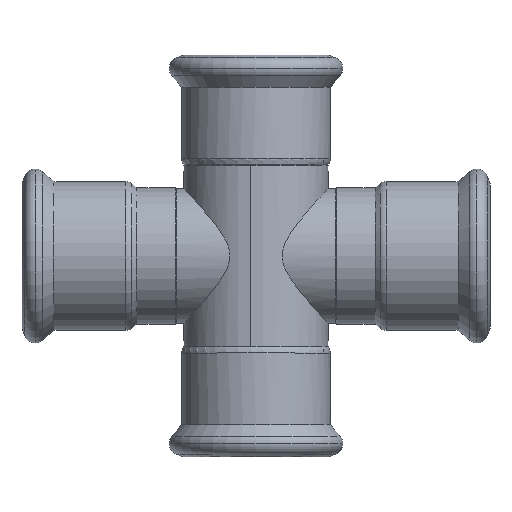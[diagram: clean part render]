
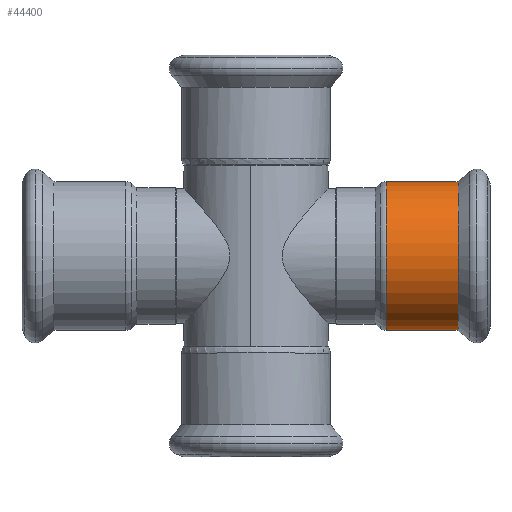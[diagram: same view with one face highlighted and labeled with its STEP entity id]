
A CAD part, top view. The second image highlights one B-rep face of the part: STEP entity #44400.
In plain terms, the highlighted cylindrical face has radius 19.1 mm (diameter 38.2 mm), a partial arc.
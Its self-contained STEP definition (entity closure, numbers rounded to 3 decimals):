
#39380=CARTESIAN_POINT('',(65.628,-21.755,
0.));
#39390=VERTEX_POINT('',#39380);
#39480=CARTESIAN_POINT('',(65.628,16.445,
0.));
#39490=VERTEX_POINT('',#39480);
#39520=CARTESIAN_POINT('',(65.628,-2.655,0.));
#39530=DIRECTION('',(-1.,0.,0.));
#39540=DIRECTION('',(0.,1.,0.));
#39550=AXIS2_PLACEMENT_3D('',#39520,#39530,#39540);
#39560=CIRCLE('',#39550,19.1);
#39570=EDGE_CURVE('',#39390,#39490,#39560,.T.);
#44090=CARTESIAN_POINT('',(74.828,-2.655,
0.));
#44100=DIRECTION('',(-1.,0.,0.));
#44110=DIRECTION('',(0.,1.,0.));
#44120=AXIS2_PLACEMENT_3D('',#44090,#44100,#44110);
#44130=CYLINDRICAL_SURFACE('',#44120,19.1);
#44140=CARTESIAN_POINT('',(74.828,-21.755,
0.));
#44150=DIRECTION('',(-1.,0.,0.));
#44160=VECTOR('',#44150,1.);
#44170=LINE('',#44140,#44160);
#44180=CARTESIAN_POINT('',(84.028,-21.755,
0.));
#44190=VERTEX_POINT('',#44180);
#44200=EDGE_CURVE('',#44190,#39390,#44170,.T.);
#44210=ORIENTED_EDGE('',*,*,#44200,.F.);
#44220=ORIENTED_EDGE('',*,*,#39570,.F.);
#44230=CARTESIAN_POINT('',(74.828,16.445,
0.));
#44240=DIRECTION('',(-1.,0.,0.));
#44250=VECTOR('',#44240,1.);
#44260=LINE('',#44230,#44250);
#44270=CARTESIAN_POINT('',(84.028,16.445,
0.));
#44280=VERTEX_POINT('',#44270);
#44290=EDGE_CURVE('',#44280,#39490,#44260,.T.);
#44300=ORIENTED_EDGE('',*,*,#44290,.T.);
#44310=CARTESIAN_POINT('',(84.028,-2.655,0.));
#44320=DIRECTION('',(1.,0.,0.));
#44330=DIRECTION('',(0.,-1.,0.));
#44340=AXIS2_PLACEMENT_3D('',#44310,#44320,#44330);
#44350=CIRCLE('',#44340,19.1);
#44360=EDGE_CURVE('',#44280,#44190,#44350,.T.);
#44370=ORIENTED_EDGE('',*,*,#44360,.F.);
#44380=EDGE_LOOP('',(#44370,#44300,#44220,#44210));
#44390=FACE_OUTER_BOUND('',#44380,.T.);
#44400=ADVANCED_FACE('',(#44390),#44130,.T.);
